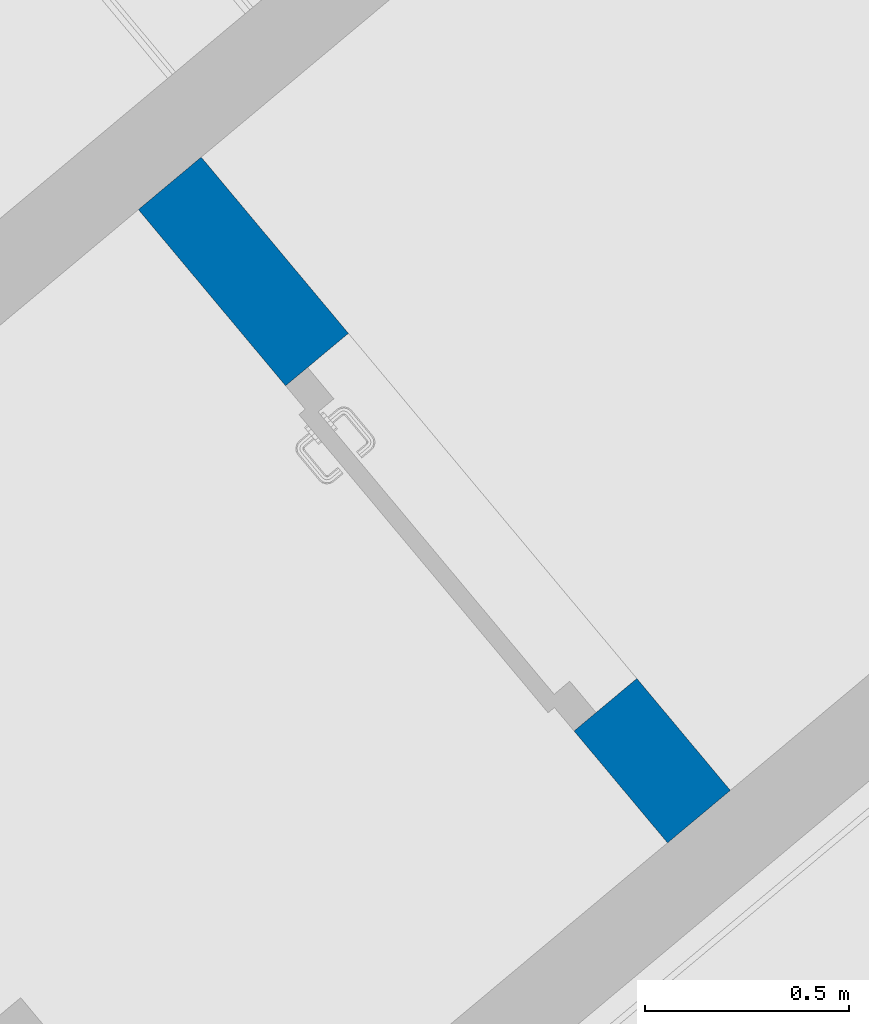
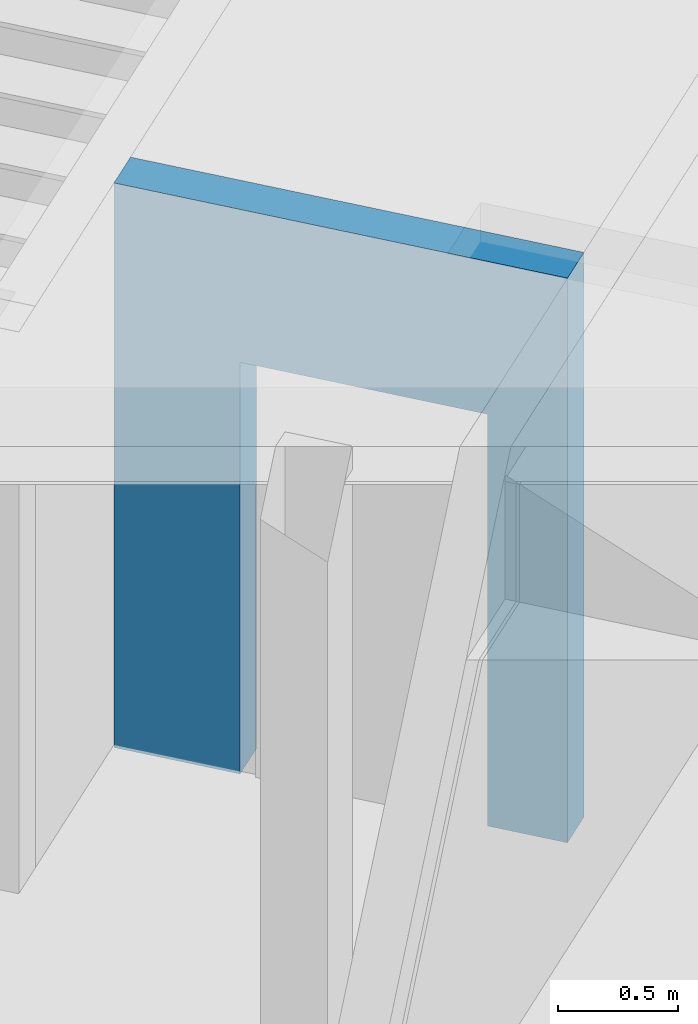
# One storey, part 1 of 14: 1 wall, 1 opening.
"""IFC4 building model written with IfcOpenShell, lengths in metres."""

from ifc_helpers import new_model, entity, si_unit, converted_unit, derived_unit, direction, frame, origin_with_axes, place, context, subcontext, project, spatial, polygons, material, type_object, element, save


model = new_model("IFC4")

# Units and contexts
model_context = context("Model", 3, precision=1e-05, world=origin_with_axes(), true_north=direction((0.0, 1.0)))
body_context = subcontext(model_context, "Body", "Model", "MODEL_VIEW")
ifc_project = project(units=[si_unit("LENGTHUNIT", "METRE"), si_unit("AREAUNIT", "SQUARE_METRE"), si_unit("VOLUMEUNIT", "CUBIC_METRE"), converted_unit("PLANEANGLEUNIT", "DEGREE", entity("IfcPlaneAngleMeasure", 0.0174532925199), si_unit("PLANEANGLEUNIT", "RADIAN"), dimensions=[0, 0, 0, 0, 0, 0, 0]), converted_unit("TIMEUNIT", "Year", entity("IfcTimeMeasure", 31556926.0), si_unit("TIMEUNIT", "SECOND"), dimensions=[0, 0, 1, 0, 0, 0, 0]), si_unit("MASSUNIT", "GRAM", prefix="KILO"), si_unit("THERMODYNAMICTEMPERATUREUNIT", "DEGREE_CELSIUS"), si_unit("LUMINOUSINTENSITYUNIT", "LUMEN"), si_unit("ENERGYUNIT", "JOULE", prefix="MEGA"), derived_unit("THERMALCONDUCTANCEUNIT", [(si_unit("POWERUNIT", "WATT"), 1), (si_unit("LENGTHUNIT", "METRE"), -1), (si_unit("THERMODYNAMICTEMPERATUREUNIT", "KELVIN"), -1)]), derived_unit("SPECIFICHEATCAPACITYUNIT", [(si_unit("ENERGYUNIT", "JOULE"), 1), (si_unit("MASSUNIT", "GRAM", prefix="KILO"), -1), (si_unit("THERMODYNAMICTEMPERATUREUNIT", "KELVIN"), -1)]), derived_unit("MASSDENSITYUNIT", [(si_unit("MASSUNIT", "GRAM", prefix="KILO"), 1), (si_unit("VOLUMEUNIT", "CUBIC_METRE"), -1)])], contexts=[model_context])

# Site, building, storey
site_placement = place(None, frame((-0.00153261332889, -0.00661245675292, 0.0), z_axis=(0.0, 0.0, 1.0), x_axis=(1.0, 0.0, 0.0)))
site = spatial("IfcSite", under=ifc_project, at=site_placement, Name="Gelände", CompositionType="ELEMENT")
building_placement = place(site_placement, origin_with_axes())
building = spatial("IfcBuilding", under=site, at=building_placement, Name="Gebäude", CompositionType="ELEMENT")
storey_placement = place(building_placement, frame((0.0, 0.0, -3.3), z_axis=(0.0, 0.0, 1.0), x_axis=(1.0, 0.0, 0.0)))
storey = spatial("IfcBuildingStorey", under=building, at=storey_placement, Name="UG1", CompositionType="ELEMENT", Elevation=-3.3)

# Wall, opening
ifc_material = material(Name="Stahlbeton Wand")
wall_type = type_object("IfcWallType", Name="Stahlbeton Wand 200", PredefinedType="NOTDEFINED")
wall_placement = place(storey_placement, frame((0.247434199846, 19.4524873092, 0.0), z_axis=(0.0, 0.0, 1.0), x_axis=(-0.641209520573, 0.767365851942, 0.0)))
wall = element("IfcWall", 1, at=wall_placement, inside=storey, type_object=wall_type, material=ifc_material, Name="Wand-008", PredefinedType="NOTDEFINED", context=body_context, shape_type="Tessellation", body=[
    polygons([(1.65641828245, 0.0, 2.1), (1.65641828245, 0.0, 0.015), (1.65641828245, 0.0, 0.0), (2.21779808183, 0.0, 0.0), (2.21779808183, 0.0, 2.88), (0.199999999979, 0.0, 2.88), (0.199999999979, 0.0, 0.0), (0.556418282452, 0.0, 0.0), (0.556418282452, 0.0, 0.015), (0.556418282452, 0.0, 2.1), (1.65641828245, 0.2, 2.1), (1.65641828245, 0.2, 0.015), (1.65641828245, 0.2, 0.0), (2.21779808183, 0.2, 0.0), (2.21779808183, 0.2, 2.88), (0.19999999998, 0.2, 2.88), (0.19999999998, 0.2, 0.0), (0.556418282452, 0.2, 0.0), (0.556418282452, 0.2, 0.015), (0.556418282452, 0.2, 2.1)], [[[1, 2, 3, 4, 5, 6, 7, 8, 9, 10]], [[2, 1, 11, 12]], [[2, 12, 13, 3]], [[3, 13, 14, 4]], [[14, 15, 5, 4]], [[15, 16, 6, 5]], [[17, 7, 6, 16]], [[18, 8, 7, 17]], [[19, 9, 8, 18]], [[10, 9, 19, 20]], [[1, 10, 20, 11]], [[20, 19, 18, 17, 16, 15, 14, 13, 12, 11]]], closed=True),
])
opening_placement = place(wall_placement, frame((1.10641828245, 0.0, 0.0), z_axis=(0.0, 0.0, 1.0), x_axis=(1.0, 0.0, 0.0)))
element("IfcOpeningElement", 2, at=opening_placement, cuts=wall, Name="Tür-002", context=body_context, identifier="Reference", shape_type="Tessellation", body=[
    polygons([(-0.55, -1.09225044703, 2.1), (-0.55, -1.09225044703, 0.0), (0.55, -1.09225044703, 0.0), (0.55, -1.09225044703, 2.1), (-0.55, 1.29225044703, 2.1), (-0.55, 1.29225044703, 0.0), (0.55, 1.29225044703, 0.0), (0.55, 1.29225044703, 2.1)], [[[1, 2, 3, 4]], [[5, 6, 2, 1]], [[6, 7, 3, 2]], [[7, 8, 4, 3]], [[8, 5, 1, 4]], [[7, 6, 5, 8]]], closed=True),
])

save(model, "model.ifc")
